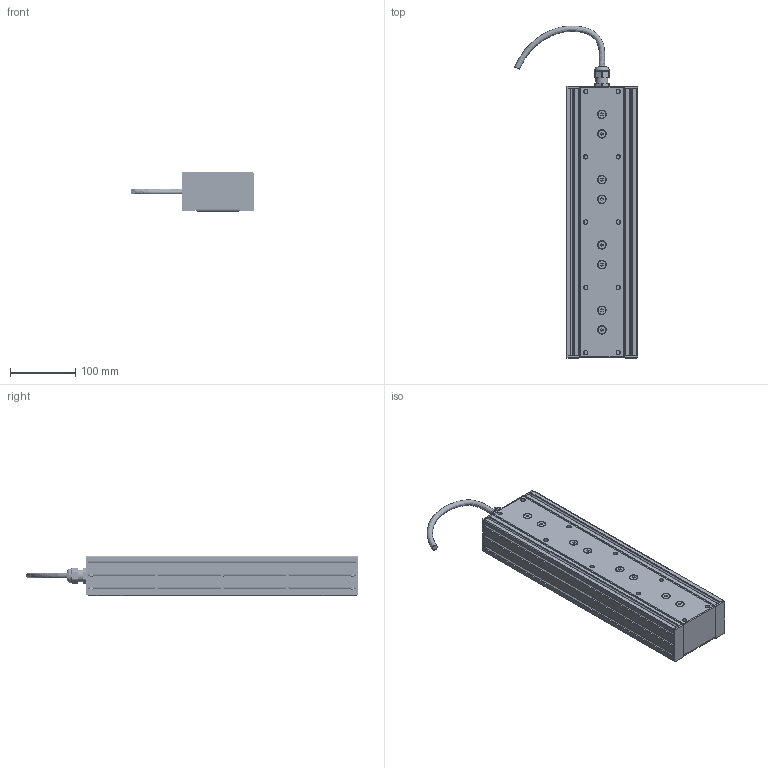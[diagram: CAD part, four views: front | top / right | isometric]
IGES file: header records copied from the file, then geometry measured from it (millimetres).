
Global section: file name: ELFQ-FA-PR004-T; native system: unknown; preprocessor: unknown; author: unknown; organization: unknown; date: 20240523.143957; units: millimetre
Bounding box: 188.37 x 508.33 x 61 mm (x, y, z)
Volume: 1101346.5 mm3; surface area: 692176.3 mm2
Topology: 28 solids, 28 shells, 2397 faces, 13237 edges, 12022 vertices
Faces by surface type: bspline 1784, revolution 613
